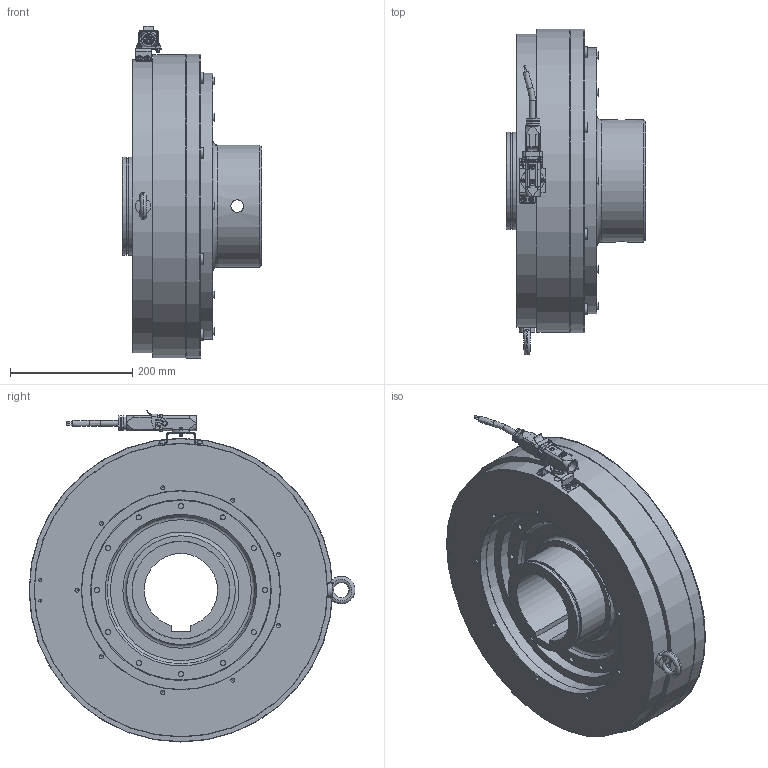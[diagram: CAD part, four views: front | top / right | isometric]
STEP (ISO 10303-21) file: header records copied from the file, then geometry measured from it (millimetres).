
FILE_DESCRIPTION(/* description */ (''),/* implementation_level */ '2;1');
FILE_NAME(/* name */ 'X:\INVENTOR\DISEGNI\08_Freni_Friz_Elettmag_Monodisco\08_26 EMSL_DF\EMSL_DF STEP\08_26_500_22 EMSL500_DF-BM-ME_S@STEP.stp',/* time_stamp */ '2018-04-24T09:09:47+02:00',/* author */ ('stefano'),/* organization */ (''),/* preprocessor_version */ 'ST-DEVELOPER v17',/* originating_system */ 'Autodesk Inventor 2018',/* authorisation */ '');
FILE_SCHEMA (('AUTOMOTIVE_DESIGN { 1 0 10303 214 3 1 1 }'));
Length unit declared in the file: millimetre
Products named in the file (1): 08_26_500_22 EMSL500_DF-BM-ME - Spina_Substitute_1
Bounding box: 228 x 533.3 x 543.28 mm (x, y, z)
Volume: 17007567.3 mm3; surface area: 1808126.1 mm2
Topology: 4 solids, 4 shells, 1849 faces, 5171 edges, 3486 vertices
Faces by surface type: plane 1075, cylinder 569, cone 133, torus 44, bspline 25, sphere 3
Full cylindrical faces by diameter (mm): 0.35 x1, 0.491 x1, 0.753 x1, 0.95 x1, 0.986 x1, 1.05 x1, 2.5 x2, 3 x4, 3.2 x1, 3.25 x2, 3.59 x3, 4 x3, 4.675 x2, 4.8 x2, 4.917 x2, 5 x20, 5.25 x4, 5.5 x2, 6 x6, 6.2 x1, 6.647 x9, 7 x1, 7.9 x2, 8.2 x2, 8.376 x12, 8.5 x4, 9.5 x2, 12 x8, 13.5 x2, 16 x14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
Entity records: 63755 total; most frequent: CARTESIAN_POINT 12887, DIRECTION 10332, ORIENTED_EDGE 10262, EDGE_CURVE 5131, AXIS2_PLACEMENT_3D 3708, VERTEX_POINT 3486, LINE 2916, VECTOR 2916
